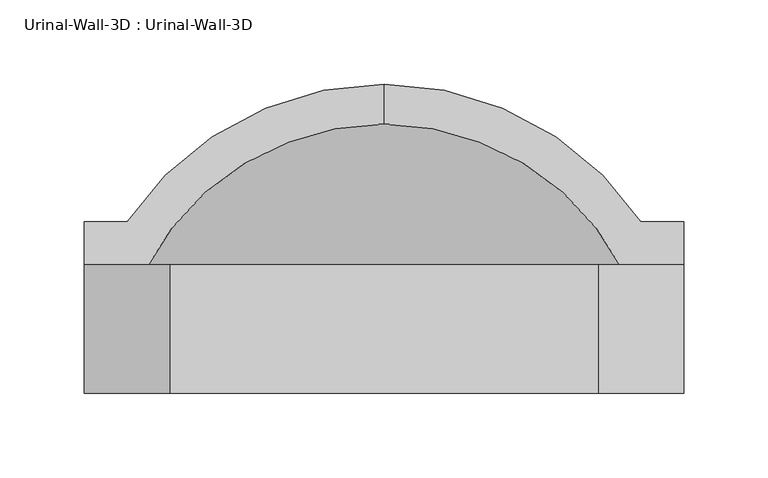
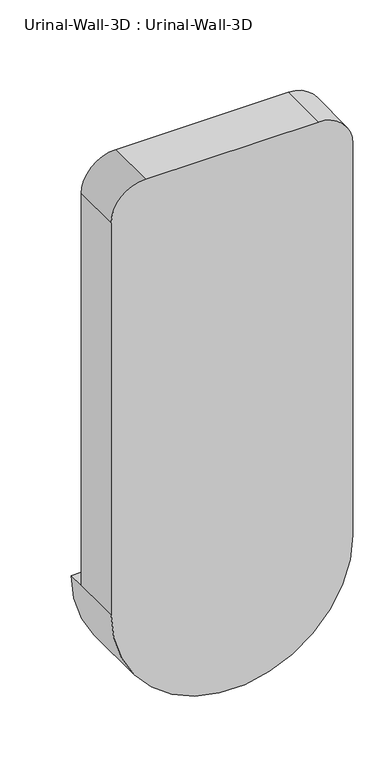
"""IFC4 building model written with IfcOpenShell, lengths in millimetres: flow terminal geometry, Urinal-Wall-3D : Urinal-Wall-3D."""

from ifc_helpers import new_model, si_unit, point, frame, origin, place, context, project, spatial, polyline, circle_curve, ellipse_curve, trimmed, source, transform, mapped, element, save
from ifc_brep_helpers import plane_surface, cylinder_surface, revolved_surface, advanced_brep


def urinal_wall_3d_urinal_wall_3d_30f61b9e(model_context):
    return source(origin(), model_context, "Body", "AdvancedBrep", [
        advanced_brep(
        [(-109.0745999, 246.6620048, 609.6), (-109.0745999, 222.9447043, 609.6), (43.3254001, 110.3706063, 609.6), (43.3254001, 139.7, 609.6), (68.7254001, 139.7, 609.6), (68.7254001, 165.1, 609.6), (43.3254001, 165.1, 609.6), (-261.4745999, 165.1, 609.6), (-286.8745999, 165.1, 609.6), (-286.8745999, 139.7, 609.6), (-261.4745999, 139.7, 609.6), (-261.4745999, 110.3706063, 609.6), (-261.4745999, 76.2, 609.6), (43.3254001, 76.2, 609.6), (-286.8745999, 63.5, 609.6), (68.7254001, 63.5, 609.6), (68.7254001, 63.5, 1219.2), (17.9254001, 63.5, 1270.0), (-236.0745999, 63.5, 1270.0), (-286.8745999, 63.5, 1219.2), (43.3254001, 139.7, 1168.4), (-7.4745999, 139.7, 1219.2), (-210.6745999, 139.7, 1219.2), (-261.4745999, 139.7, 1168.4), (-286.8745999, 139.7, 1219.2), (-236.0745999, 139.7, 1270.0), (17.9254001, 139.7, 1270.0), (68.7254001, 139.7, 1219.2), (43.3254001, 76.2, 1168.4), (-7.4745999, 76.2, 1219.2), (-210.6745999, 76.2, 1219.2), (-261.4745999, 76.2, 1168.4)],
        [
            (0, 1),
            (1, 2, circle_curve(frame((-109.0745999, 63.5, 609.6), z_axis=(0.0, 0.0, -1.0), x_axis=(1.0, 0.0, 0.0)), 159.4447043)),
            (2, 3),
            (3, 4),
            (4, 5),
            (5, 6),
            (6, 0, circle_curve(frame((-109.0745999, 63.5, 609.6), z_axis=(0.0, 0.0, 1.0), x_axis=(1.0, 0.0, 0.0)), 183.1620048)),
            (0, 7, circle_curve(frame((-109.0745999, 63.5, 609.6), z_axis=(0.0, 0.0, 1.0), x_axis=(-1.0, 0.0, 0.0)), 183.1620048)),
            (7, 8),
            (8, 9),
            (9, 10),
            (10, 11),
            (11, 1, circle_curve(frame((-109.0745999, 63.5, 609.6), z_axis=(0.0, 0.0, -1.0), x_axis=(-1.0, 0.0, 0.0)), 159.4447043)),
            (11, 2, circle_curve(frame((-109.0745999, 110.3706063, 609.6), z_axis=(0.0, -1.0, 0.0), x_axis=(1.0, 0.0, 0.0)), 152.4)),
            (11, 12),
            (12, 13, circle_curve(frame((-109.0745999, 76.2, 609.6), z_axis=(0.0, -1.0, 0.0), x_axis=(1.0, 0.0, 0.0)), 152.4)),
            (13, 2),
            (14, 15, circle_curve(frame((-109.0745999, 63.5, 609.6), z_axis=(0.0, -1.0, 0.0), x_axis=(1.0, 0.0, 0.0)), 177.8)),
            (15, 16),
            (16, 17, circle_curve(frame((17.9254001, 63.5, 1219.2), z_axis=(0.0, -1.0, 0.0), x_axis=(-1.0, 0.0, 0.0)), 50.8)),
            (17, 18),
            (18, 19, circle_curve(frame((-236.0745999, 63.5, 1219.2), z_axis=(0.0, -1.0, 0.0), x_axis=(-1.0, 0.0, 0.0)), 50.8)),
            (19, 14),
            (14, 9),
            (8, 5, circle_curve(frame((-109.0745999, 165.1, 609.6), z_axis=(0.0, -1.0, 0.0), x_axis=(1.0, 0.0, 0.0)), 177.8)),
            (4, 15),
            (7, 6, circle_curve(frame((-109.0745999, 165.1, 609.6), z_axis=(0.0, -1.0, 0.0), x_axis=(1.0, 0.0, 0.0)), 152.4)),
            (3, 20),
            (20, 21, circle_curve(frame((-7.4745999, 139.7, 1168.4), z_axis=(0.0, -1.0, 0.0), x_axis=(-1.0, 0.0, 0.0)), 50.8)),
            (21, 22),
            (22, 23, circle_curve(frame((-210.6745999, 139.7, 1168.4), z_axis=(0.0, -1.0, 0.0), x_axis=(-1.0, 0.0, 0.0)), 50.8)),
            (23, 10),
            (9, 24),
            (24, 25, circle_curve(frame((-236.0745999, 139.7, 1219.2), z_axis=(0.0, 1.0, 0.0), x_axis=(-1.0, 0.0, 0.0)), 50.8)),
            (25, 26),
            (26, 27, circle_curve(frame((17.9254001, 139.7, 1219.2), z_axis=(0.0, 1.0, 0.0), x_axis=(-1.0, 0.0, 0.0)), 50.8)),
            (27, 4),
            (13, 28),
            (28, 20),
            (28, 29, circle_curve(frame((-7.4745999, 76.2, 1168.4), z_axis=(0.0, -1.0, 0.0), x_axis=(-1.0, 0.0, 0.0)), 50.8)),
            (29, 21),
            (29, 30),
            (30, 22),
            (30, 31, circle_curve(frame((-210.6745999, 76.2, 1168.4), z_axis=(0.0, -1.0, 0.0), x_axis=(-1.0, 0.0, 0.0)), 50.8)),
            (31, 23),
            (31, 12),
            (19, 24),
            (18, 25),
            (17, 26),
            (16, 27),
        ],
        [
            plane_surface(frame((-109.0745999, 352.7104173, 609.6), z_axis=(0.0, 0.0, 1.0), x_axis=(1.0, 0.0, 0.0))),
            plane_surface(frame((-109.0745999, 352.7104173, 609.6), z_axis=(0.0, 0.0, 1.0), x_axis=(-1.0, 0.0, 0.0))),
            revolved_surface(trimmed(ellipse_curve(frame((-109.0745999, 63.5, 609.6), z_axis=(0.0, 0.0, -1.0), x_axis=(1.0, 0.0, 0.0)), 159.4447043, 159.4447043), [point((-109.0745999, 222.9447043, 609.6))], [point((43.3254001, 110.3706063, 609.6))], True, "CARTESIAN"), (-109.0745999, 352.7104173, 609.6), (0.0, 1.0, 0.0)),
            revolved_surface(polyline([(43.32540010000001, 110.37060630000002, 609.6), (43.32540010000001, 76.19999999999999, 609.6)]), (-109.0745999, 352.7104173, 609.6), (0.0, 1.0, 0.0)),
            plane_surface(frame((-109.0745999, 63.5, 609.6), z_axis=(0.0, -1.0, 0.0), x_axis=(1.0, 0.0, 0.0))),
            cylinder_surface(frame((-109.0745999, 352.7104173, 609.6), z_axis=(0.0, 1.0, 0.0), x_axis=(1.0, 0.0, 0.0)), 177.8),
            plane_surface(frame((-109.0745999, 165.1, 609.6), z_axis=(0.0, 1.0, 0.0), x_axis=(1.0, 0.0, 0.0))),
            revolved_surface(trimmed(ellipse_curve(frame((-109.0745999, 63.5, 609.6), z_axis=(0.0, 0.0, 1.0), x_axis=(1.0, 0.0, 0.0)), 183.1620048, 183.1620048), [point((43.3254001, 165.1, 609.6))], [point((-109.0745999, 246.6620048, 609.6))], True, "CARTESIAN"), (-109.0745999, 352.7104173, 609.6), (0.0, 1.0, 0.0)),
            plane_surface(frame((43.3254001, 139.7, 609.6), z_axis=(0.0, 1.0, 0.0), x_axis=(0.0, 0.0, 1.0))),
            plane_surface(frame((43.3254001, 139.7, 609.6), z_axis=(-1.0, 0.0, 0.0), x_axis=(0.0, -1.0, 0.0))),
            revolved_surface(polyline([(-58.2745999, 76.2, 1168.4), (-58.2745999, 139.7, 1168.4)]), (-7.4745999, 63.5, 1168.4), (0.0, -1.0, 0.0)),
            plane_surface(frame((-7.4745999, 139.7, 1219.2), z_axis=(0.0, 0.0, -1.0), x_axis=(0.0, -1.0, 0.0))),
            revolved_surface(polyline([(-261.4745999, 76.2, 1168.4), (-261.4745999, 139.7, 1168.4)]), (-210.6745999, 63.5, 1168.4), (0.0, -1.0, 0.0)),
            plane_surface(frame((-261.4745999, 139.7, 1168.4), z_axis=(1.0, 0.0, 0.0), x_axis=(0.0, -1.0, 0.0))),
            plane_surface(frame((-286.8745999, 139.7, 609.6), z_axis=(-1.0, 0.0, 0.0), x_axis=(0.0, -1.0, 0.0))),
            cylinder_surface(frame((-236.0745999, 63.5, 1219.2), z_axis=(0.0, 1.0, 0.0), x_axis=(-1.0, 0.0, 0.0)), 50.8),
            plane_surface(frame((-236.0745999, 139.7, 1270.0), z_axis=(0.0, 0.0, 1.0), x_axis=(0.0, -1.0, 0.0))),
            cylinder_surface(frame((17.9254001, 63.5, 1219.2), z_axis=(0.0, 1.0, 0.0), x_axis=(-1.0, 0.0, 0.0)), 50.8),
            plane_surface(frame((68.7254001, 139.7, 1219.2), z_axis=(1.0, 0.0, 0.0), x_axis=(0.0, -1.0, 0.0))),
            plane_surface(frame((43.3254001, 76.2, 609.6), z_axis=(0.0, 1.0, 0.0), x_axis=(0.0, 0.0, -1.0))),
        ],
        [
            (0, [[1, 2, 3, 4, 5, 6, 7]]),
            (1, [[-1, 8, 9, 10, 11, 12, 13]]),
            (2, [[-2, -13, 14]]),
            (3, [[-14, 15, 16, 17]]),
            (4, [[18, 19, 20, 21, 22, 23]]),
            (5, [[-18, 24, -10, 25, -5, 26]]),
            (6, [[-6, -25, -9, 27]]),
            (7, [[-7, -27, -8]]),
            (8, [[28, 29, 30, 31, 32, -11, 33, 34, 35, 36, 37, -4]]),
            (9, [[-28, -3, -17, 38, 39]]),
            (10, [[-29, -39, 40, 41]]),
            (11, [[-30, -41, 42, 43]]),
            (12, [[-31, -43, 44, 45]]),
            (13, [[-32, -45, 46, -15, -12]]),
            (14, [[-33, -24, -23, 47]]),
            (15, [[-34, -47, -22, 48]]),
            (16, [[-35, -48, -21, 49]]),
            (17, [[-36, -49, -20, 50]]),
            (18, [[-37, -50, -19, -26]]),
            (19, [[-16, -46, -44, -42, -40, -38]]),
        ],
    ),
    ])


if __name__ == "__main__":
    model = new_model("IFC4")
    model_context = context("Model", 3, world=origin())
    ifc_project = project(units=[si_unit("LENGTHUNIT", "METRE", prefix="MILLI")], contexts=[model_context])
    site = spatial("IfcSite", under=ifc_project)
    building = spatial("IfcBuilding", under=site)
    placement = place(None, origin())
    urinal_wall_3d_urinal_wall_3d_shape = urinal_wall_3d_urinal_wall_3d_30f61b9e(model_context)
    element("IfcFlowTerminal", 1, ObjectType="Urinal-Wall-3D : Urinal-Wall-3D", at=placement, inside=building, context=model_context, shape_type="MappedRepresentation", body=[
        mapped(urinal_wall_3d_urinal_wall_3d_shape, transform((0.0, 0.0, 0.0), x_axis=(1.0, 0.0, 0.0), y_axis=(0.0, 1.0, 0.0), z_axis=(0.0, 0.0, 1.0))),
    ])
    save(model, "model.ifc")
